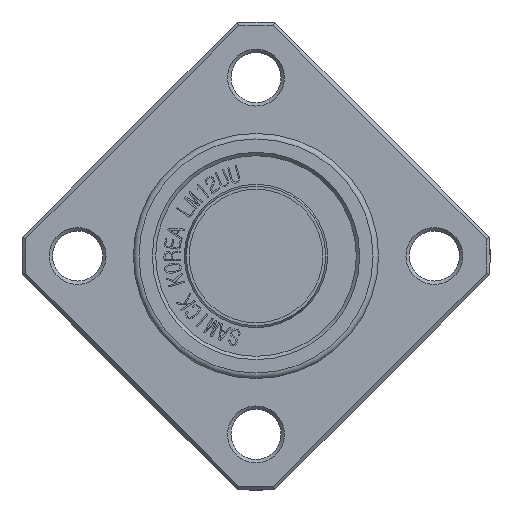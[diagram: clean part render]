
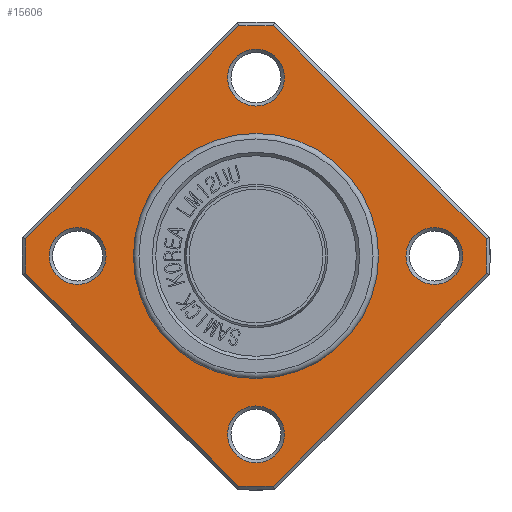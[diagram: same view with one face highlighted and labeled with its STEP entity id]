
A CAD part, front view. The second image highlights one B-rep face of the part: STEP entity #15606.
In plain terms, the highlighted planar face has unit normal (0, -1, 0).
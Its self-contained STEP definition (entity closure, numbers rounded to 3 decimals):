
#2191=FACE_BOUND('',#3372,.T.);
#2192=FACE_BOUND('',#3373,.T.);
#2193=FACE_BOUND('',#3374,.T.);
#2194=FACE_BOUND('',#3375,.T.);
#2195=FACE_BOUND('',#3376,.T.);
#2249=PLANE('',#16518);
#2502=FACE_OUTER_BOUND('',#3371,.T.);
#3371=EDGE_LOOP('',(#10790,#10791,#10792,#10793,#10794,#10795,#10796,#10797));
#3372=EDGE_LOOP('',(#10798));
#3373=EDGE_LOOP('',(#10799));
#3374=EDGE_LOOP('',(#10800,#10801));
#3375=EDGE_LOOP('',(#10802));
#3376=EDGE_LOOP('',(#10803));
#4295=LINE('',#18849,#5453);
#4296=LINE('',#18853,#5454);
#4297=LINE('',#18857,#5455);
#4298=LINE('',#18861,#5456);
#5453=VECTOR('',#16947,10.);
#5454=VECTOR('',#16950,10.);
#5455=VECTOR('',#16953,10.);
#5456=VECTOR('',#16956,10.);
#6624=CIRCLE('',#16516,2.55);
#6626=CIRCLE('',#16519,20.7);
#6627=CIRCLE('',#16520,20.7);
#6628=CIRCLE('',#16521,20.7);
#6629=CIRCLE('',#16522,20.7);
#6630=CIRCLE('',#16523,2.55);
#6631=CIRCLE('',#16524,2.55);
#6632=CIRCLE('',#16525,11.);
#6633=CIRCLE('',#16526,11.);
#6634=CIRCLE('',#16527,2.55);
#6718=VERTEX_POINT('',#18841);
#6720=VERTEX_POINT('',#18847);
#6721=VERTEX_POINT('',#18848);
#6722=VERTEX_POINT('',#18850);
#6723=VERTEX_POINT('',#18852);
#6724=VERTEX_POINT('',#18854);
#6725=VERTEX_POINT('',#18856);
#6726=VERTEX_POINT('',#18858);
#6727=VERTEX_POINT('',#18860);
#6728=VERTEX_POINT('',#18863);
#6729=VERTEX_POINT('',#18865);
#6730=VERTEX_POINT('',#18867);
#6731=VERTEX_POINT('',#18868);
#6732=VERTEX_POINT('',#18871);
#8342=EDGE_CURVE('',#6718,#6718,#6624,.T.);
#8345=EDGE_CURVE('',#6720,#6721,#4295,.T.);
#8346=EDGE_CURVE('',#6720,#6722,#6626,.T.);
#8347=EDGE_CURVE('',#6723,#6722,#4296,.T.);
#8348=EDGE_CURVE('',#6723,#6724,#6627,.T.);
#8349=EDGE_CURVE('',#6725,#6724,#4297,.T.);
#8350=EDGE_CURVE('',#6725,#6726,#6628,.T.);
#8351=EDGE_CURVE('',#6727,#6726,#4298,.T.);
#8352=EDGE_CURVE('',#6727,#6721,#6629,.T.);
#8353=EDGE_CURVE('',#6728,#6728,#6630,.T.);
#8354=EDGE_CURVE('',#6729,#6729,#6631,.T.);
#8355=EDGE_CURVE('',#6730,#6731,#6632,.T.);
#8356=EDGE_CURVE('',#6731,#6730,#6633,.T.);
#8357=EDGE_CURVE('',#6732,#6732,#6634,.T.);
#10790=ORIENTED_EDGE('',*,*,#8345,.F.);
#10791=ORIENTED_EDGE('',*,*,#8346,.T.);
#10792=ORIENTED_EDGE('',*,*,#8347,.F.);
#10793=ORIENTED_EDGE('',*,*,#8348,.T.);
#10794=ORIENTED_EDGE('',*,*,#8349,.F.);
#10795=ORIENTED_EDGE('',*,*,#8350,.T.);
#10796=ORIENTED_EDGE('',*,*,#8351,.F.);
#10797=ORIENTED_EDGE('',*,*,#8352,.T.);
#10798=ORIENTED_EDGE('',*,*,#8353,.F.);
#10799=ORIENTED_EDGE('',*,*,#8354,.F.);
#10800=ORIENTED_EDGE('',*,*,#8355,.F.);
#10801=ORIENTED_EDGE('',*,*,#8356,.F.);
#10802=ORIENTED_EDGE('',*,*,#8357,.F.);
#10803=ORIENTED_EDGE('',*,*,#8342,.F.);
#15606=ADVANCED_FACE('',(#2502,#2191,#2192,#2193,#2194,#2195),#2249,.T.);
#16516=AXIS2_PLACEMENT_3D('',#18842,#16940,#16941);
#16518=AXIS2_PLACEMENT_3D('',#18846,#16945,#16946);
#16519=AXIS2_PLACEMENT_3D('',#18851,#16948,#16949);
#16520=AXIS2_PLACEMENT_3D('',#18855,#16951,#16952);
#16521=AXIS2_PLACEMENT_3D('',#18859,#16954,#16955);
#16522=AXIS2_PLACEMENT_3D('',#18862,#16957,#16958);
#16523=AXIS2_PLACEMENT_3D('',#18864,#16959,#16960);
#16524=AXIS2_PLACEMENT_3D('',#18866,#16961,#16962);
#16525=AXIS2_PLACEMENT_3D('',#18869,#16963,#16964);
#16526=AXIS2_PLACEMENT_3D('',#18870,#16965,#16966);
#16527=AXIS2_PLACEMENT_3D('',#18872,#16967,#16968);
#16940=DIRECTION('center_axis',(0.,-1.,0.));
#16941=DIRECTION('ref_axis',(0.,0.,-1.));
#16945=DIRECTION('center_axis',(0.,-1.,0.));
#16946=DIRECTION('ref_axis',(0.,0.,-1.));
#16947=DIRECTION('',(0.707,0.,0.707));
#16948=DIRECTION('center_axis',(0.,-1.,0.));
#16949=DIRECTION('ref_axis',(1.,0.,0.));
#16950=DIRECTION('',(-0.707,0.,0.707));
#16951=DIRECTION('center_axis',(0.,-1.,0.));
#16952=DIRECTION('ref_axis',(1.,0.,0.));
#16953=DIRECTION('',(-0.707,0.,-0.707));
#16954=DIRECTION('center_axis',(0.,-1.,0.));
#16955=DIRECTION('ref_axis',(1.,0.,0.));
#16956=DIRECTION('',(0.707,0.,-0.707));
#16957=DIRECTION('center_axis',(0.,-1.,0.));
#16958=DIRECTION('ref_axis',(1.,0.,0.));
#16959=DIRECTION('center_axis',(0.,-1.,0.));
#16960=DIRECTION('ref_axis',(1.,0.,0.));
#16961=DIRECTION('center_axis',(0.,-1.,0.));
#16962=DIRECTION('ref_axis',(0.,0.,
1.));
#16963=DIRECTION('center_axis',(0.,-1.,0.));
#16964=DIRECTION('ref_axis',(1.,0.,0.));
#16965=DIRECTION('center_axis',(0.,-1.,0.));
#16966=DIRECTION('ref_axis',(1.,0.,0.));
#16967=DIRECTION('center_axis',(0.,-1.,0.));
#16968=DIRECTION('ref_axis',(-1.,0.,0.));
#18841=CARTESIAN_POINT('',(0.,4.,-13.45));
#18842=CARTESIAN_POINT('Origin',(0.,4.,-16.));
#18846=CARTESIAN_POINT('Origin',(11.,4.,0.));
#18847=CARTESIAN_POINT('',(-20.641,4.,1.562));
#18848=CARTESIAN_POINT('',(-1.562,4.,20.641));
#18849=CARTESIAN_POINT('',(-3.543,4.,18.66));
#18850=CARTESIAN_POINT('',(-20.641,4.,-1.562));
#18851=CARTESIAN_POINT('Origin',(0.,4.,0.));
#18852=CARTESIAN_POINT('',(-1.562,4.,-20.641));
#18853=CARTESIAN_POINT('',(-13.16,4.,-9.043));
#18854=CARTESIAN_POINT('',(1.562,4.,-20.641));
#18855=CARTESIAN_POINT('Origin',(0.,4.,0.));
#18856=CARTESIAN_POINT('',(20.641,4.,-1.562));
#18857=CARTESIAN_POINT('',(9.043,4.,-13.16));
#18858=CARTESIAN_POINT('',(20.641,4.,1.562));
#18859=CARTESIAN_POINT('Origin',(0.,4.,0.));
#18860=CARTESIAN_POINT('',(1.562,4.,20.641));
#18861=CARTESIAN_POINT('',(18.66,4.,3.543));
#18862=CARTESIAN_POINT('Origin',(0.,4.,0.));
#18863=CARTESIAN_POINT('',(13.45,4.,0.));
#18864=CARTESIAN_POINT('Origin',(16.,4.,0.));
#18865=CARTESIAN_POINT('',(0.,4.,13.45));
#18866=CARTESIAN_POINT('Origin',(0.,4.,16.));
#18867=CARTESIAN_POINT('',(11.,4.,0.));
#18868=CARTESIAN_POINT('',(-11.,4.,0.));
#18869=CARTESIAN_POINT('Origin',(0.,4.,0.));
#18870=CARTESIAN_POINT('Origin',(0.,4.,0.));
#18871=CARTESIAN_POINT('',(-13.45,4.,0.));
#18872=CARTESIAN_POINT('Origin',(-16.,4.,0.));
